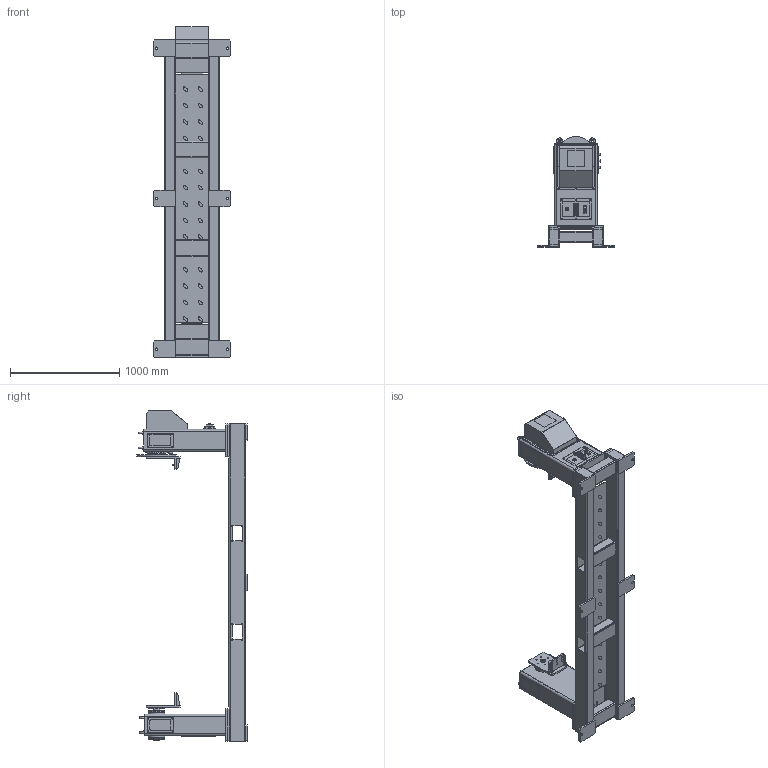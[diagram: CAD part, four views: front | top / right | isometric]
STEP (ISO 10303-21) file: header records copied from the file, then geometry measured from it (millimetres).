
FILE_DESCRIPTION (( 'STEP AP203' ), '1' );
FILE_NAME ('AUT-SWP-ZW-500(拸曹弇遺).STEP', '2020-04-26T01:27:31', ( 'Microsoft' ), ( 'Microsoft' ), 'SwSTEP 2.0', 'SolidWorks 2016', '' );
FILE_SCHEMA (( 'CONFIG_CONTROL_DESIGN' ));
Length unit declared in the file: millimetre
Products named in the file (35): 眻盄傷赽; 華盄肣堵; 曹弇遺隅弇种; 埴袪幗赽粣創32911; 諷秶啣; 紱釬碟啣; GB／T6170-20001型六角螺母A级和B级M10; 揤裔; 抯芃釱(陔); 諷秶碟謂結啣; 躇猾啣; 淕极菁釱(源奪倰); AUT-SWP-ZW-500(拸曹弇遺); 帣眊隙蛌粣; GB825-88吊环螺钉M12×22; 翋眊誘欶(準梓); 翋粣眊(陔); GB／T812-1988M42-1.5圆螺母_M42×1.5; 翋眊蚾饜芞; L啣-ZX; RV-40E; L啣-WX; 帣眊(陔); 蜇輪假蚾啣; 熬厒儂粣蜊婖; 瑤脣縐裔啣; 粣創弅; 8郋瑤脣; SGMGV-09ADC6E; 帣眊蚾饜; 旮僱⑩粣創61911; 笭倰瑤脣譫; 侜督萇儂假蚾釱; 菁釱裔啣; 粣創路杶
Assembly tree (47 placements, depth 4):
  AUT-SWP-ZW-500(拸曹弇遺)
    淕极菁釱(源奪倰)
    翋眊蚾饜芞
      翋粣眊(陔)
      RV-40E
      熬厒儂粣蜊婖
      SGMGV-09ADC6E
      侜督萇儂假蚾釱
      華盄肣堵
      紱釬碟啣
      躇猾啣
      翋眊誘欶(準梓)
      L啣-ZX
      諷秶啣
        蜇輪假蚾啣
        8郋瑤脣
        笭倰瑤脣譫
        眻盄傷赽
      諷秶碟謂結啣
      抯芃釱(陔)
      GB825-88吊环螺钉M12×22  x2
    帣眊蚾饜
      帣眊(陔)
      粣創弅  x2
      旮僱⑩粣創61911  x2
      粣創路杶  x2
      埴袪幗赽粣創32911  x2
      揤裔  x2
      帣眊隙蛌粣
      GB／T812-1988M42-1.5圆螺母_M42×1.5  x2
      L啣-WX
      諷秶碟謂結啣  x2
      GB825-88吊环螺钉M12×22  x2
      瑤脣縐裔啣
    菁釱裔啣
    曹弇遺隅弇种  x2
    GB／T6170-20001型六角螺母A级和B级M10  x2
Bounding box: 700 x 1009 x 3021.5 mm (x, y, z)
Volume: 54341737.4 mm3; surface area: 15872946.6 mm2
Topology: 101 solids, 103 shells, 2720 faces, 7146 edges, 4760 vertices
Faces by surface type: plane 1382, cylinder 840, cone 261, bspline 200, torus 37
Full cylindrical faces by diameter (mm): 2.175 x8, 2.5 x4, 3 x4, 3.2 x4, 3.5 x24, 4 x4, 4.2 x28, 4.4 x4, 4.5 x4, 5 x7, 6 x4, 6.5 x36, 6.6 x4, 6.647 x6, 6.8 x42, 7 x5, 8 x8, 8.5 x1, 8.8 x4, 9 x70, 10 x9, 10.2 x12, 11 x8, 11.835 x6, 12 x10, 13 x17, 13.5 x12, 15 x12, 16 x2, 18 x1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
Entity records: 90851 total; most frequent: CARTESIAN_POINT 29875, ORIENTED_EDGE 11312, DIRECTION 10524, EDGE_CURVE 5656, VERTEX_POINT 4152, EDGE_LOOP 3964, AXIS2_PLACEMENT_3D 3730, VECTOR 3064
